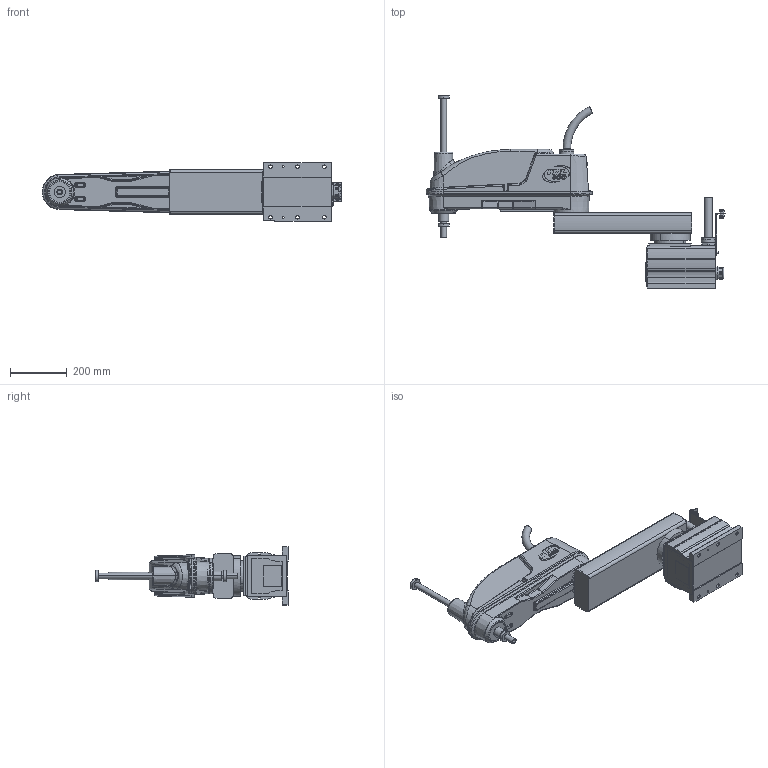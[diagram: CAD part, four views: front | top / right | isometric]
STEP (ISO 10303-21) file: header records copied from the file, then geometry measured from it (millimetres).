
FILE_DESCRIPTION((''),'2;1');
FILE_NAME('THL800_3D_ASM','2024-06-21T14:55:19',('15575'),(''),'CREO PARAMETRIC BY PTC INC, 2020454','CREO PARAMETRIC BY PTC INC, 2020454','');
FILE_SCHEMA(('AUTOMOTIVE_DESIGN { 1 0 10303 214 1 1 1 1 }'));
Products named in the file (5): THL8910_BASE; THL800_1ST_ARM; THL800_2ND_ARM; THL800_BALL_SCREW; THL800_3D_ASM
Assembly tree (4 placements, depth 2):
  THL800_3D_ASM
    THL8910_BASE
    THL800_1ST_ARM
    THL800_2ND_ARM
    THL800_BALL_SCREW
Bounding box: 1059.14 x 679 x 206 mm (x, y, z)
Volume: 11435846.3 mm3; surface area: 1597727.3 mm2
Topology: 4 solids, 13 shells, 1471 faces, 3545 edges, 2206 vertices
Faces by surface type: cylinder 552, plane 536, bspline 202, torus 90, cone 63, extrusion 18, sphere 8, revolution 2
Entity records: 66265 total; most frequent: CARTESIAN_POINT 24870, ORIENTED_EDGE 7082, DIRECTION 6662, EDGE_CURVE 3541, AXIS2_PLACEMENT_3D 2517, VERTEX_POINT 2206, VECTOR 1626, EDGE_LOOP 1623
